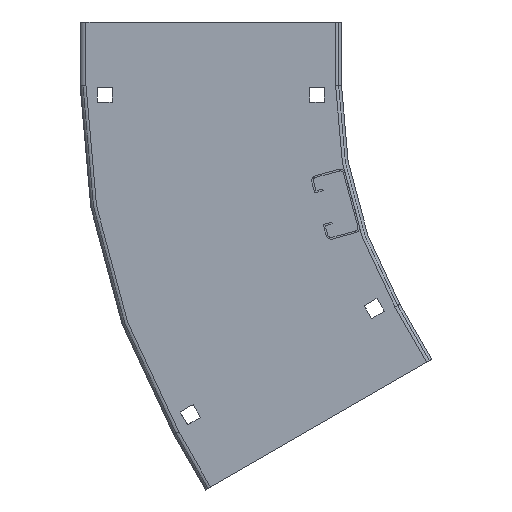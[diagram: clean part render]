
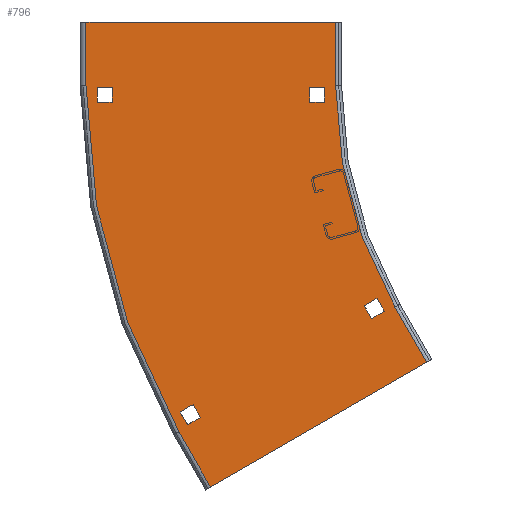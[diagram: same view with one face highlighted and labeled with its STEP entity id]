
A CAD part, left-side view. The second image highlights one B-rep face of the part: STEP entity #796.
In plain terms, the highlighted planar face has unit normal (-1, 0, 0).
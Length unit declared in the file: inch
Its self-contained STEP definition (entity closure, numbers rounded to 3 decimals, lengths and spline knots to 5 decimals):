
#1=DIRECTION('',(0.,-0.866,-0.5));
#2=VECTOR('',#1,6.858);
#3=CARTESIAN_POINT('',(0.,15.5968,11.02554));
#4=LINE('',#3,#2);
#5=DIRECTION('',(0.,1.,0.));
#6=VECTOR('',#5,6.858);
#7=CARTESIAN_POINT('',(0.,12.162,-1.75));
#8=LINE('',#7,#6);
#9=DIRECTION('',(0.,0.,-1.));
#10=VECTOR('',#9,0.41);
#11=CARTESIAN_POINT('',(0.,18.7135,0.455));
#12=LINE('',#11,#10);
#13=DIRECTION('',(0.,-1.,0.));
#14=VECTOR('',#13,0.41);
#15=CARTESIAN_POINT('',(0.,18.7135,0.045));
#16=LINE('',#15,#14);
#17=DIRECTION('',(0.,0.,1.));
#18=VECTOR('',#17,0.41);
#19=CARTESIAN_POINT('',(0.,18.3035,0.045));
#20=LINE('',#19,#18);
#21=DIRECTION('',(0.,1.,0.));
#22=VECTOR('',#21,0.41);
#23=CARTESIAN_POINT('',(0.,18.3035,0.455));
#24=LINE('',#23,#22);
#25=DIRECTION('',(0.,1.,0.));
#26=VECTOR('',#25,0.41);
#27=CARTESIAN_POINT('',(0.,12.4685,0.455));
#28=LINE('',#27,#26);
#29=DIRECTION('',(0.,0.,-1.));
#30=VECTOR('',#29,0.41);
#31=CARTESIAN_POINT('',(0.,12.8785,0.455));
#32=LINE('',#31,#30);
#33=DIRECTION('',(0.,-1.,0.));
#34=VECTOR('',#33,0.41);
#35=CARTESIAN_POINT('',(0.,12.8785,0.045));
#36=LINE('',#35,#34);
#37=DIRECTION('',(0.,0.,1.));
#38=VECTOR('',#37,0.41);
#39=CARTESIAN_POINT('',(0.,12.4685,0.045));
#40=LINE('',#39,#38);
#41=DIRECTION('',(0.,-0.866,-0.5));
#42=VECTOR('',#41,0.41);
#43=CARTESIAN_POINT('',(0.,11.37854,6.04402));
#44=LINE('',#43,#42);
#45=DIRECTION('',(0.,-0.5,0.866));
#46=VECTOR('',#45,0.41);
#47=CARTESIAN_POINT('',(0.,11.02347,5.83902));
#48=LINE('',#47,#46);
#49=DIRECTION('',(0.,0.866,0.5));
#50=VECTOR('',#49,0.41);
#51=CARTESIAN_POINT('',(0.,10.81847,6.19409));
#52=LINE('',#51,#50);
#53=DIRECTION('',(0.,0.5,-0.866));
#54=VECTOR('',#53,0.41);
#55=CARTESIAN_POINT('',(0.,11.17354,6.39909));
#56=LINE('',#55,#54);
#57=DIRECTION('',(0.,0.866,0.5));
#58=VECTOR('',#57,0.41);
#59=CARTESIAN_POINT('',(0.,15.87238,9.11196));
#60=LINE('',#59,#58);
#61=DIRECTION('',(0.,0.5,-0.866));
#62=VECTOR('',#61,0.41);
#63=CARTESIAN_POINT('',(0.,16.22745,9.31696));
#64=LINE('',#63,#62);
#65=DIRECTION('',(0.,-0.866,-0.5));
#66=VECTOR('',#65,0.41);
#67=CARTESIAN_POINT('',(0.,16.43245,8.96189));
#68=LINE('',#67,#66);
#69=DIRECTION('',(0.,-0.5,0.866));
#70=VECTOR('',#69,0.41);
#71=CARTESIAN_POINT('',(0.,16.07738,8.75689));
#72=LINE('',#71,#70);
#73=DIRECTION('',(0.,0.,1.));
#74=VECTOR('',#73,1.75);
#75=CARTESIAN_POINT('',(0.,19.02,-1.75));
#76=LINE('',#75,#74);
#114=DIRECTION('',(0.,0.,-1.));
#115=VECTOR('',#114,1.75);
#116=CARTESIAN_POINT('',(0.,12.162,0.));
#117=LINE('',#116,#115);
#123=CARTESIAN_POINT('',(0.,0.,0.));
#124=DIRECTION('',(-1.,0.,0.));
#125=DIRECTION('',(0.,0.866,0.5));
#126=AXIS2_PLACEMENT_3D('',#123,#124,#125);
#128=DIRECTION('',(0.,0.5,-0.866));
#129=VECTOR('',#128,1.75);
#130=CARTESIAN_POINT('',(0.,9.6576,7.59654));
#131=LINE('',#130,#129);
#169=DIRECTION('',(0.,-0.5,0.866));
#170=VECTOR('',#169,1.75);
#171=CARTESIAN_POINT('',(0.,16.4718,9.51));
#172=LINE('',#171,#170);
#178=CARTESIAN_POINT('',(0.,0.,0.));
#179=DIRECTION('',(1.,0.,0.));
#180=DIRECTION('',(0.,1.,0.));
#181=AXIS2_PLACEMENT_3D('',#178,#179,#180);
#573=CARTESIAN_POINT('',(0.,9.6576,7.59654));
#575=VERTEX_POINT('',#573);
#579=CARTESIAN_POINT('',(0.,10.5326,6.081));
#581=VERTEX_POINT('',#579);
#585=CARTESIAN_POINT('',(0.,12.162,0.));
#587=VERTEX_POINT('',#585);
#591=CARTESIAN_POINT('',(0.,12.162,-1.75));
#593=VERTEX_POINT('',#591);
#621=CARTESIAN_POINT('',(0.,19.02,-1.75));
#622=VERTEX_POINT('',#621);
#623=CARTESIAN_POINT('',(0.,15.5968,11.02554));
#624=VERTEX_POINT('',#623);
#629=CARTESIAN_POINT('',(0.,19.02,0.));
#631=VERTEX_POINT('',#629);
#635=CARTESIAN_POINT('',(0.,16.4718,9.51));
#637=VERTEX_POINT('',#635);
#669=CARTESIAN_POINT('',(0.,18.7135,0.455));
#670=CARTESIAN_POINT('',(0.,18.7135,0.045));
#671=VERTEX_POINT('',#669);
#672=VERTEX_POINT('',#670);
#673=CARTESIAN_POINT('',(0.,18.3035,0.045));
#674=VERTEX_POINT('',#673);
#675=CARTESIAN_POINT('',(0.,18.3035,0.455));
#676=VERTEX_POINT('',#675);
#677=CARTESIAN_POINT('',(0.,12.4685,0.455));
#678=CARTESIAN_POINT('',(0.,12.8785,0.455));
#679=VERTEX_POINT('',#677);
#680=VERTEX_POINT('',#678);
#681=CARTESIAN_POINT('',(0.,12.8785,0.045));
#682=VERTEX_POINT('',#681);
#683=CARTESIAN_POINT('',(0.,12.4685,0.045));
#684=VERTEX_POINT('',#683);
#701=CARTESIAN_POINT('',(0.,11.37854,6.04402));
#702=CARTESIAN_POINT('',(0.,11.02347,5.83902));
#703=VERTEX_POINT('',#701);
#704=VERTEX_POINT('',#702);
#705=CARTESIAN_POINT('',(0.,10.81847,6.19409));
#706=VERTEX_POINT('',#705);
#707=CARTESIAN_POINT('',(0.,11.17354,6.39909));
#708=VERTEX_POINT('',#707);
#709=CARTESIAN_POINT('',(0.,15.87238,9.11196));
#710=CARTESIAN_POINT('',(0.,16.22745,9.31696));
#711=VERTEX_POINT('',#709);
#712=VERTEX_POINT('',#710);
#713=CARTESIAN_POINT('',(0.,16.43245,8.96189));
#714=VERTEX_POINT('',#713);
#715=CARTESIAN_POINT('',(0.,16.07738,8.75689));
#716=VERTEX_POINT('',#715);
#733=CARTESIAN_POINT('',(0.,0.,0.));
#734=DIRECTION('',(1.,0.,0.));
#735=DIRECTION('',(0.,0.,-1.));
#736=AXIS2_PLACEMENT_3D('',#733,#734,#735);
#737=PLANE('',#736);
#739=ORIENTED_EDGE('',*,*,#738,.T.);
#741=ORIENTED_EDGE('',*,*,#740,.T.);
#743=ORIENTED_EDGE('',*,*,#742,.T.);
#745=ORIENTED_EDGE('',*,*,#744,.T.);
#747=ORIENTED_EDGE('',*,*,#746,.T.);
#749=ORIENTED_EDGE('',*,*,#748,.T.);
#751=ORIENTED_EDGE('',*,*,#750,.T.);
#753=ORIENTED_EDGE('',*,*,#752,.T.);
#754=EDGE_LOOP('',(#739,#741,#743,#745,#747,#749,#751,#753));
#755=FACE_OUTER_BOUND('',#754,.F.);
#757=ORIENTED_EDGE('',*,*,#756,.T.);
#759=ORIENTED_EDGE('',*,*,#758,.T.);
#761=ORIENTED_EDGE('',*,*,#760,.T.);
#763=ORIENTED_EDGE('',*,*,#762,.T.);
#764=EDGE_LOOP('',(#757,#759,#761,#763));
#765=FACE_BOUND('',#764,.F.);
#767=ORIENTED_EDGE('',*,*,#766,.T.);
#769=ORIENTED_EDGE('',*,*,#768,.T.);
#771=ORIENTED_EDGE('',*,*,#770,.T.);
#773=ORIENTED_EDGE('',*,*,#772,.T.);
#774=EDGE_LOOP('',(#767,#769,#771,#773));
#775=FACE_BOUND('',#774,.F.);
#777=ORIENTED_EDGE('',*,*,#776,.T.);
#779=ORIENTED_EDGE('',*,*,#778,.T.);
#781=ORIENTED_EDGE('',*,*,#780,.T.);
#783=ORIENTED_EDGE('',*,*,#782,.T.);
#784=EDGE_LOOP('',(#777,#779,#781,#783));
#785=FACE_BOUND('',#784,.F.);
#787=ORIENTED_EDGE('',*,*,#786,.T.);
#789=ORIENTED_EDGE('',*,*,#788,.T.);
#791=ORIENTED_EDGE('',*,*,#790,.T.);
#793=ORIENTED_EDGE('',*,*,#792,.T.);
#794=EDGE_LOOP('',(#787,#789,#791,#793));
#795=FACE_BOUND('',#794,.F.);
#796=ADVANCED_FACE('',(#755,#765,#775,#785,#795),#737,.F.);
#127=CIRCLE('',#126,12.162);
#182=CIRCLE('',#181,19.02);
#738=EDGE_CURVE('',#622,#631,#76,.T.);
#740=EDGE_CURVE('',#631,#637,#182,.T.);
#742=EDGE_CURVE('',#637,#624,#172,.T.);
#744=EDGE_CURVE('',#624,#575,#4,.T.);
#746=EDGE_CURVE('',#575,#581,#131,.T.);
#748=EDGE_CURVE('',#581,#587,#127,.T.);
#750=EDGE_CURVE('',#587,#593,#117,.T.);
#752=EDGE_CURVE('',#593,#622,#8,.T.);
#756=EDGE_CURVE('',#671,#672,#12,.T.);
#758=EDGE_CURVE('',#672,#674,#16,.T.);
#760=EDGE_CURVE('',#674,#676,#20,.T.);
#762=EDGE_CURVE('',#676,#671,#24,.T.);
#766=EDGE_CURVE('',#679,#680,#28,.T.);
#768=EDGE_CURVE('',#680,#682,#32,.T.);
#770=EDGE_CURVE('',#682,#684,#36,.T.);
#772=EDGE_CURVE('',#684,#679,#40,.T.);
#776=EDGE_CURVE('',#703,#704,#44,.T.);
#778=EDGE_CURVE('',#704,#706,#48,.T.);
#780=EDGE_CURVE('',#706,#708,#52,.T.);
#782=EDGE_CURVE('',#708,#703,#56,.T.);
#786=EDGE_CURVE('',#711,#712,#60,.T.);
#788=EDGE_CURVE('',#712,#714,#64,.T.);
#790=EDGE_CURVE('',#714,#716,#68,.T.);
#792=EDGE_CURVE('',#716,#711,#72,.T.);
